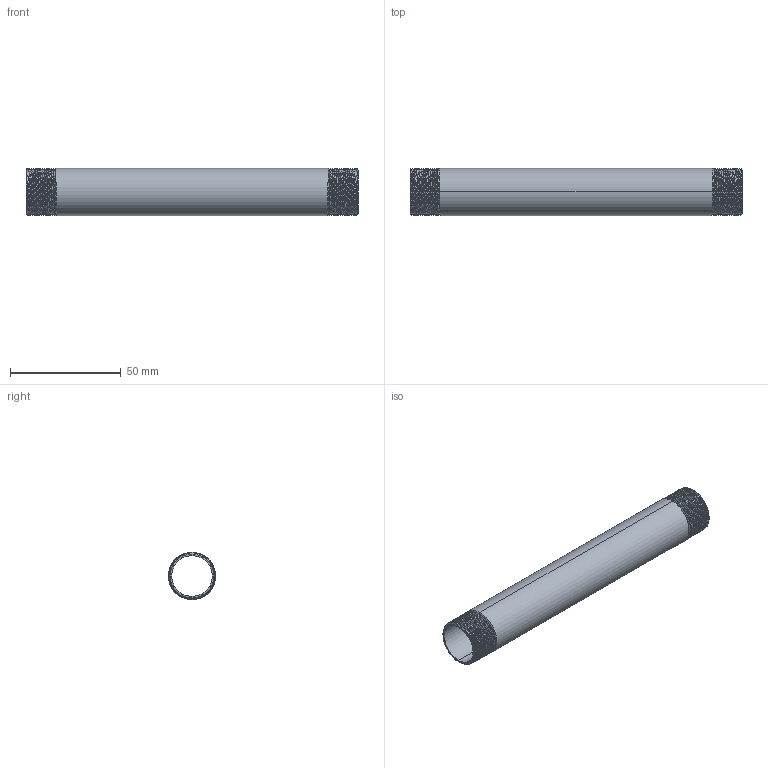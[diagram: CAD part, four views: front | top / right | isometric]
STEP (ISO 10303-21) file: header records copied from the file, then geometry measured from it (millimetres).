
FILE_DESCRIPTION (( 'STEP AP203' ), '1' );
FILE_NAME ('3D_R210_1-2x150_17185430.STEP', '2024-08-16T10:49:20', ( '' ), ( '' ), 'SwSTEP 2.0', 'SolidWorks 2024', '' );
FILE_SCHEMA (( 'CONFIG_CONTROL_DESIGN' ));
Length unit declared in the file: millimetre
Products named in the file (1): 3D_R210_1-2x150_17185430
Bounding box: 150 x 21.29 x 21.3 mm (x, y, z)
Volume: 13398.4 mm3; surface area: 19625 mm2
Topology: 1 solids, 1 shells, 72 faces, 202 edges, 132 vertices
Faces by surface type: cone 58, bspline 6, cylinder 4, plane 4
Entity records: 11263 total; most frequent: CARTESIAN_POINT 9585, ORIENTED_EDGE 404, DIRECTION 230, EDGE_CURVE 202, VERTEX_POINT 132, B_SPLINE_CURVE_WITH_KNOTS 112, AXIS2_PLACEMENT_3D 81, EDGE_LOOP 74
